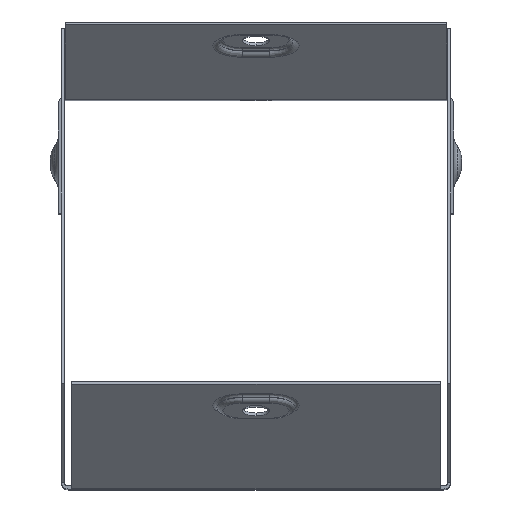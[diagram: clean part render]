
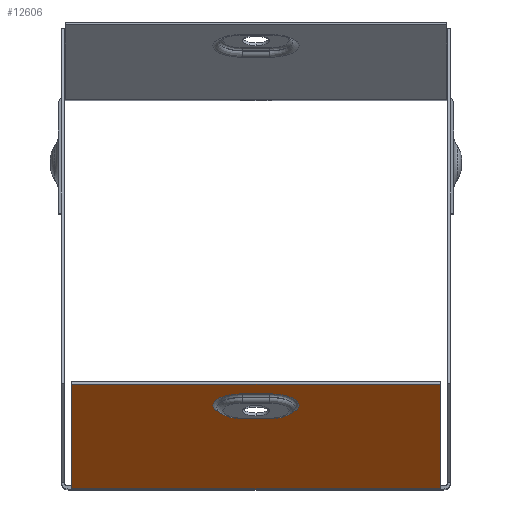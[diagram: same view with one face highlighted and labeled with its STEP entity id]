
A CAD part, top view. The second image highlights one B-rep face of the part: STEP entity #12606.
In plain terms, the highlighted planar face has unit normal (0, -0.924, 0.383).
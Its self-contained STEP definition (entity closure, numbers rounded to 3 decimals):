
#354 = AXIS2_PLACEMENT_3D ( 'NONE', #9509, #11632, #5192 ) ;
#642 = EDGE_LOOP ( 'NONE', ( #7815, #10699, #8118, #13174 ) ) ;
#1015 = VERTEX_POINT ( 'NONE', #12201 ) ;
#1112 = VERTEX_POINT ( 'NONE', #1275 ) ;
#1275 = CARTESIAN_POINT ( 'NONE',  ( 3.5, -76.451, 126.86 ) ) ;
#1474 = LINE ( 'NONE', #12471, #12759 ) ;
#1979 = AXIS2_PLACEMENT_3D ( 'NONE', #13734, #12993, #2019 ) ;
#1990 = ORIENTED_EDGE ( 'NONE', *, *, #10437, .T. ) ;
#2019 = DIRECTION ( 'NONE',  ( 0., 0.383, 0.924 ) ) ;
#2142 = AXIS2_PLACEMENT_3D ( 'NONE', #13219, #13170, #13297 ) ;
#2272 = LINE ( 'NONE', #10339, #11676 ) ;
#2426 = CARTESIAN_POINT ( 'NONE',  ( 47.299, -100.663, 68.406 ) ) ;
#2505 = CARTESIAN_POINT ( 'NONE',  ( -3.5, -82.266, 112.82 ) ) ;
#2618 = CARTESIAN_POINT ( 'NONE',  ( 3.5, -82.266, 112.82 ) ) ;
#2967 = CARTESIAN_POINT ( 'NONE',  ( 48.2, -74.001, 132.774 ) ) ;
#3085 = CARTESIAN_POINT ( 'NONE',  ( -47.299, -74.001, 132.774 ) ) ;
#3353 = EDGE_CURVE ( 'NONE', #7495, #5865, #9273, .T. ) ;
#3444 = ORIENTED_EDGE ( 'NONE', *, *, #12609, .T. ) ;
#3684 = EDGE_CURVE ( 'NONE', #9978, #7495, #2272, .T. ) ;
#3698 = VERTEX_POINT ( 'NONE', #2618 ) ;
#3881 = PLANE ( 'NONE',  #1979 ) ;
#4434 = LINE ( 'NONE', #13836, #9523 ) ;
#4625 = CIRCLE ( 'NONE', #354, 7.598 ) ;
#4675 = CARTESIAN_POINT ( 'NONE',  ( -47.299, -100.8, 68.075 ) ) ;
#4811 = EDGE_CURVE ( 'NONE', #5865, #10855, #5320, .T. ) ;
#4817 = FACE_BOUND ( 'NONE', #11685, .T. ) ;
#4856 = EDGE_CURVE ( 'NONE', #9191, #1015, #4625, .T. ) ;
#5192 = DIRECTION ( 'NONE',  ( 0., 0.383, 0.924 ) ) ;
#5320 = LINE ( 'NONE', #4675, #9224 ) ;
#5865 = VERTEX_POINT ( 'NONE', #3085 ) ;
#6169 = FACE_OUTER_BOUND ( 'NONE', #642, .T. ) ;
#6786 = ORIENTED_EDGE ( 'NONE', *, *, #4856, .T. ) ;
#7101 = EDGE_CURVE ( 'NONE', #9978, #10855, #1474, .T. ) ;
#7495 = VERTEX_POINT ( 'NONE', #13973 ) ;
#7815 = ORIENTED_EDGE ( 'NONE', *, *, #4811, .T. ) ;
#8118 = ORIENTED_EDGE ( 'NONE', *, *, #3684, .T. ) ;
#8310 = CIRCLE ( 'NONE', #2142, 7.598 ) ;
#8330 = DIRECTION ( 'NONE',  ( 0., -0.383, -0.924 ) ) ;
#8869 = CARTESIAN_POINT ( 'NONE',  ( 3.5, -76.451, 126.86 ) ) ;
#8884 = LINE ( 'NONE', #8869, #13948 ) ;
#9191 = VERTEX_POINT ( 'NONE', #2505 ) ;
#9224 = VECTOR ( 'NONE', #8330, 1000. ) ;
#9273 = LINE ( 'NONE', #2967, #13046 ) ;
#9275 = DIRECTION ( 'NONE',  ( 0., 0.383, 0.924 ) ) ;
#9493 = DIRECTION ( 'NONE',  ( -1., 0., 0. ) ) ;
#9509 = CARTESIAN_POINT ( 'NONE',  ( -3.5, -79.358, 119.84 ) ) ;
#9523 = VECTOR ( 'NONE', #9493, 1000. ) ;
#9978 = VERTEX_POINT ( 'NONE', #2426 ) ;
#10030 = DIRECTION ( 'NONE',  ( 1., 0., 0. ) ) ;
#10339 = CARTESIAN_POINT ( 'NONE',  ( 47.299, -100.864, 67.921 ) ) ;
#10437 = EDGE_CURVE ( 'NONE', #1112, #3698, #8310, .T. ) ;
#10699 = ORIENTED_EDGE ( 'NONE', *, *, #7101, .F. ) ;
#10855 = VERTEX_POINT ( 'NONE', #13913 ) ;
#11632 = DIRECTION ( 'NONE',  ( 0., 0.924, -0.383 ) ) ;
#11676 = VECTOR ( 'NONE', #9275, 1000. ) ;
#11685 = EDGE_LOOP ( 'NONE', ( #12646, #1990, #3444, #6786 ) ) ;
#12201 = CARTESIAN_POINT ( 'NONE',  ( -3.5, -76.451, 126.86 ) ) ;
#12471 = CARTESIAN_POINT ( 'NONE',  ( 48.2, -100.663, 68.406 ) ) ;
#12606 = ADVANCED_FACE ( 'NONE', ( #4817, #6169 ), #3881, .F. ) ;
#12609 = EDGE_CURVE ( 'NONE', #3698, #9191, #4434, .T. ) ;
#12646 = ORIENTED_EDGE ( 'NONE', *, *, #13460, .T. ) ;
#12759 = VECTOR ( 'NONE', #13458, 1000. ) ;
#12794 = DIRECTION ( 'NONE',  ( -1., 0., 0. ) ) ;
#12993 = DIRECTION ( 'NONE',  ( 0., 0.924, -0.383 ) ) ;
#13046 = VECTOR ( 'NONE', #12794, 1000. ) ;
#13170 = DIRECTION ( 'NONE',  ( 0., 0.924, -0.383 ) ) ;
#13174 = ORIENTED_EDGE ( 'NONE', *, *, #3353, .T. ) ;
#13219 = CARTESIAN_POINT ( 'NONE',  ( 3.5, -79.358, 119.84 ) ) ;
#13297 = DIRECTION ( 'NONE',  ( 0., 0.383, 0.924 ) ) ;
#13458 = DIRECTION ( 'NONE',  ( -1., 0., 0. ) ) ;
#13460 = EDGE_CURVE ( 'NONE', #1015, #1112, #8884, .T. ) ;
#13734 = CARTESIAN_POINT ( 'NONE',  ( 48.2, -100.8, 68.075 ) ) ;
#13836 = CARTESIAN_POINT ( 'NONE',  ( 3.5, -82.266, 112.82 ) ) ;
#13913 = CARTESIAN_POINT ( 'NONE',  ( -47.299, -100.663, 68.406 ) ) ;
#13948 = VECTOR ( 'NONE', #10030, 1000. ) ;
#13973 = CARTESIAN_POINT ( 'NONE',  ( 47.299, -74.001, 132.774 ) ) ;
